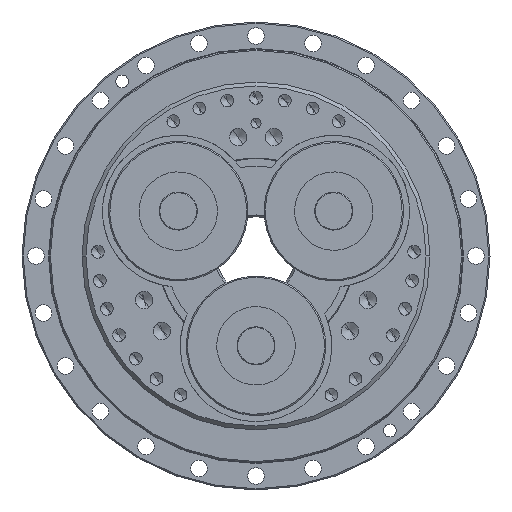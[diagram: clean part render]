
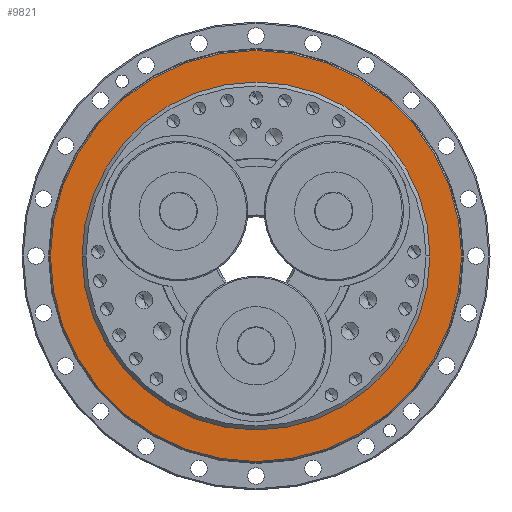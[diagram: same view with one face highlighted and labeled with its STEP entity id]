
A CAD part, left-side view. The second image highlights one B-rep face of the part: STEP entity #9821.
In plain terms, the highlighted planar face has unit normal (-1, 0, 0).
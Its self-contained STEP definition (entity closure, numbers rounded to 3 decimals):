
#1022 = AXIS2_PLACEMENT_3D ( 'NONE', #55254, #42946, #13770 ) ;
#1559 = DIRECTION ( 'NONE',  ( 1., 0., 0. ) ) ;
#2467 = ORIENTED_EDGE ( 'NONE', *, *, #77121, .T. ) ;
#2838 = ORIENTED_EDGE ( 'NONE', *, *, #80601, .T. ) ;
#3806 = AXIS2_PLACEMENT_3D ( 'NONE', #6078, #12027, #5177 ) ;
#3872 = CIRCLE ( 'NONE', #1022, 162.5 ) ;
#5177 = DIRECTION ( 'NONE',  ( 0., 1., 0. ) ) ;
#5271 = DIRECTION ( 'NONE',  ( 0., 0., 1. ) ) ;
#6078 = CARTESIAN_POINT ( 'NONE',  ( -132., 0., 0. ) ) ;
#7959 = CARTESIAN_POINT ( 'NONE',  ( -132., 0., 0. ) ) ;
#8181 = CIRCLE ( 'NONE', #3806, 137.5 ) ;
#9821 = ADVANCED_FACE ( 'NONE', ( #47684, #54054 ), #55870, .T. ) ;
#12027 = DIRECTION ( 'NONE',  ( 1., 0., 0. ) ) ;
#13770 = DIRECTION ( 'NONE',  ( 0., 1., 0. ) ) ;
#15588 = CARTESIAN_POINT ( 'NONE',  ( -132., 137.5, 0. ) ) ;
#19533 = CIRCLE ( 'NONE', #80672, 137.5 ) ;
#20416 = CARTESIAN_POINT ( 'NONE',  ( -132., 0., 0. ) ) ;
#20463 = VERTEX_POINT ( 'NONE', #25396 ) ;
#24706 = EDGE_CURVE ( 'NONE', #74270, #88598, #3872, .T. ) ;
#25396 = CARTESIAN_POINT ( 'NONE',  ( -132., -137.5, 0. ) ) ;
#31029 = ORIENTED_EDGE ( 'NONE', *, *, #67545, .F. ) ;
#38573 = CIRCLE ( 'NONE', #64720, 162.5 ) ;
#42946 = DIRECTION ( 'NONE',  ( 1., 0., 0. ) ) ;
#44314 = ORIENTED_EDGE ( 'NONE', *, *, #24706, .F. ) ;
#47684 = FACE_BOUND ( 'NONE', #50389, .T. ) ;
#50389 = EDGE_LOOP ( 'NONE', ( #2467, #2838 ) ) ;
#53883 = CARTESIAN_POINT ( 'NONE',  ( -132., 162.5, 0. ) ) ;
#54054 = FACE_OUTER_BOUND ( 'NONE', #87547, .T. ) ;
#55048 = DIRECTION ( 'NONE',  ( 1., 0., 0. ) ) ;
#55254 = CARTESIAN_POINT ( 'NONE',  ( -132., 0., 0. ) ) ;
#55870 = PLANE ( 'NONE',  #74104 ) ;
#60979 = DIRECTION ( 'NONE',  ( 0., 1., 0. ) ) ;
#64720 = AXIS2_PLACEMENT_3D ( 'NONE', #20416, #55048, #60979 ) ;
#64872 = CARTESIAN_POINT ( 'NONE',  ( -132., -162.5, 0. ) ) ;
#65489 = VERTEX_POINT ( 'NONE', #15588 ) ;
#67545 = EDGE_CURVE ( 'NONE', #88598, #74270, #38573, .T. ) ;
#74104 = AXIS2_PLACEMENT_3D ( 'NONE', #89153, #90056, #5271 ) ;
#74270 = VERTEX_POINT ( 'NONE', #64872 ) ;
#76346 = DIRECTION ( 'NONE',  ( 0., 1., 0. ) ) ;
#77121 = EDGE_CURVE ( 'NONE', #65489, #20463, #19533, .T. ) ;
#80601 = EDGE_CURVE ( 'NONE', #20463, #65489, #8181, .T. ) ;
#80672 = AXIS2_PLACEMENT_3D ( 'NONE', #7959, #1559, #76346 ) ;
#87547 = EDGE_LOOP ( 'NONE', ( #31029, #44314 ) ) ;
#88598 = VERTEX_POINT ( 'NONE', #53883 ) ;
#89153 = CARTESIAN_POINT ( 'NONE',  ( -132., 150., 0. ) ) ;
#90056 = DIRECTION ( 'NONE',  ( -1., 0., 0. ) ) ;
